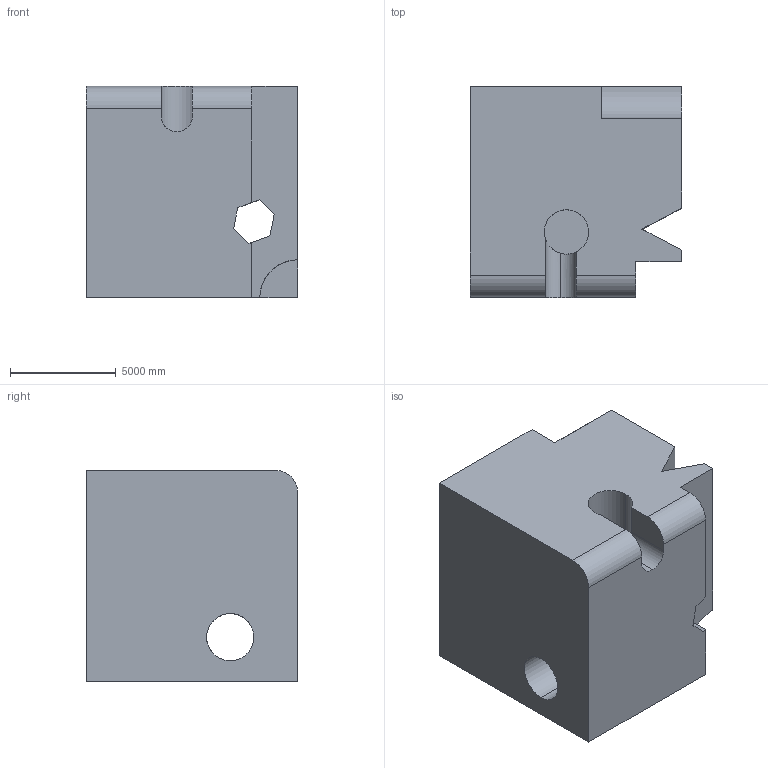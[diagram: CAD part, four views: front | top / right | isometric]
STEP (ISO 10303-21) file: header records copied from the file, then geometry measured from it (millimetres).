
FILE_DESCRIPTION (( 'STEP AP203' ), '1' );
FILE_NAME ('998.STEP', '2022-07-29T15:05:47', ( 'user' ), ( '' ), 'SwSTEP 2.0', 'SolidWorks 2021', '' );
FILE_SCHEMA (( 'CONFIG_CONTROL_DESIGN' ));
Length unit declared in the file: centimetre
Products named in the file (1): 998
Bounding box: 10000 x 10000 x 10000 mm (x, y, z)
Volume: 835551751005.5 mm3; surface area: 755090476 mm2
Topology: 1 solids, 1 shells, 43 faces, 138 edges, 92 vertices
Faces by surface type: plane 32, cylinder 11
Entity records: 1897 total; most frequent: CARTESIAN_POINT 618, ORIENTED_EDGE 276, DIRECTION 228, EDGE_CURVE 138, VECTOR 98, LINE 98, VERTEX_POINT 92, AXIS2_PLACEMENT_3D 65
